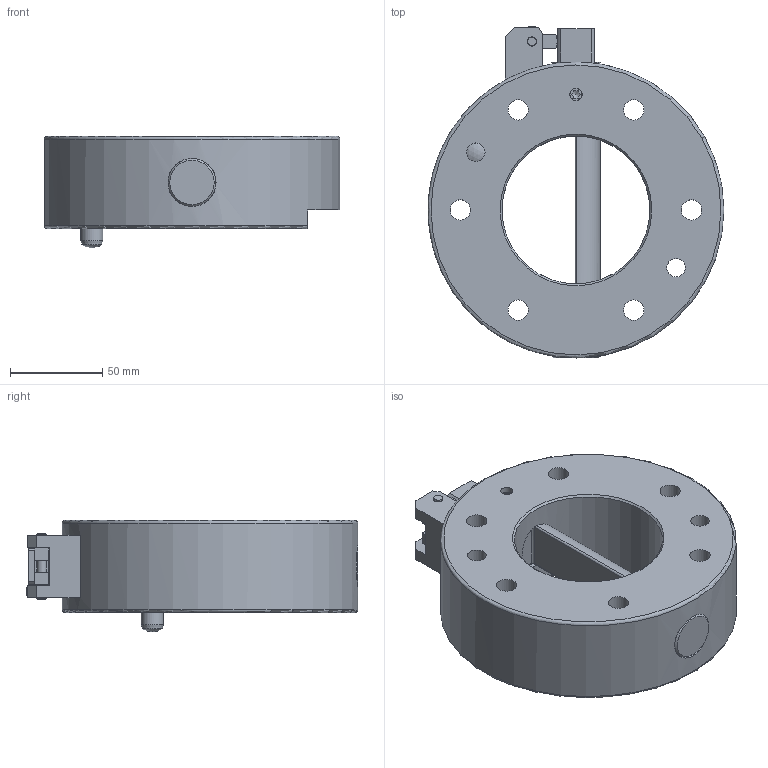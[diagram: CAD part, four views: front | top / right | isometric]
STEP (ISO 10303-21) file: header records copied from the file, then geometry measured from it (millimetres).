
FILE_DESCRIPTION(/* description */ (''),/* implementation_level */ '2;1');
FILE_NAME(/* name */ '\\dc01\daten\CAD\Standard\Daten\3D-Datenbank\SWS\4 - 3D-CAD-Daten SWS 050-160\SWS160\step-Daten\G-SWS160-2OE.stp',/* time_stamp */ '2016-02-24T15:14:32+01:00',/* author */ ('ysplieth'),/* organization */ ('GRIP GmbH'),/* preprocessor_version */ 'ST-DEVELOPER v15.2',/* originating_system */ 'Autodesk Inventor 2014',/* authorisation */ '');
FILE_SCHEMA (('CONFIG_CONTROL_DESIGN'));
Length unit declared in the file: millimetre
Products named in the file (1): Bauteil5
Bounding box: 159.97 x 179.55 x 60.33 mm (x, y, z)
Volume: 736002.3 mm3; surface area: 94256.2 mm2
Topology: 2 solids, 8 shells, 196 faces, 465 edges, 302 vertices
Faces by surface type: plane 91, cylinder 67, cone 24, torus 8, bspline 4, sphere 2
Full cylindrical faces by diameter (mm): 3.242 x2, 4 x3, 4.134 x2, 4.5 x2, 5 x5, 5.1 x2, 5.5 x1, 6.647 x3, 7 x2, 8 x2, 10 x2, 11 x6, 12 x1, 18 x6, 80 x1, 160 x1
Entity records: 5789 total; most frequent: CARTESIAN_POINT 1507, DIRECTION 821, ORIENTED_EDGE 736, EDGE_CURVE 367, AXIS2_PLACEMENT_3D 334, EDGE_LOOP 309, VERTEX_POINT 271, ADVANCED_FACE 196
